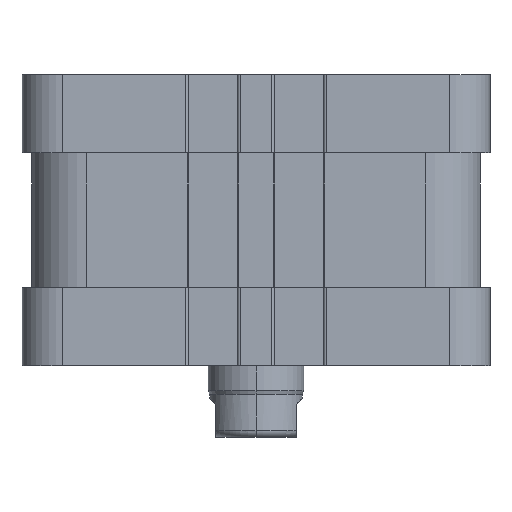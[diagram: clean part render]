
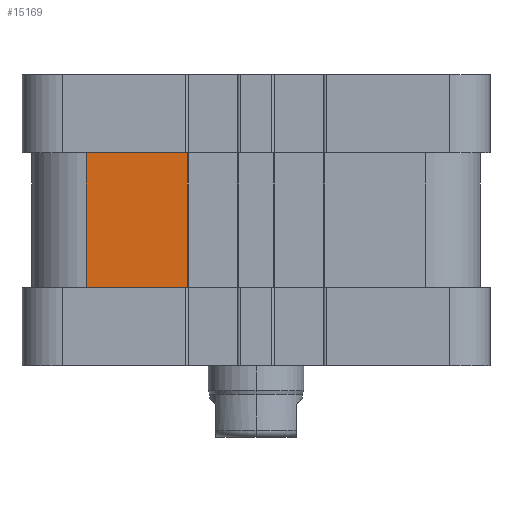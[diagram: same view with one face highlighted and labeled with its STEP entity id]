
A CAD part, left-side view. The second image highlights one B-rep face of the part: STEP entity #15169.
In plain terms, the highlighted planar face has unit normal (-1, 0, 0).
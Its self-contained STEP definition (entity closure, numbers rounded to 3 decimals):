
#8570=CARTESIAN_POINT('',(-28.25,-9.6,-11.6));
#8571=VERTEX_POINT('',#8570);
#8579=CARTESIAN_POINT('',(-28.25,11.5,-11.6));
#8580=VERTEX_POINT('',#8579);
#8581=CARTESIAN_POINT('',(-28.25,11.5,-11.6));
#8582=DIRECTION('',(0.0,-1.0,0.0));
#8583=VECTOR('',#8582,21.1);
#8584=LINE('',#8581,#8583);
#8585=EDGE_CURVE('',#8580,#8571,#8584,.T.);
#11064=CARTESIAN_POINT('',(-28.25,11.5,16.6));
#11065=VERTEX_POINT('',#11064);
#11073=CARTESIAN_POINT('',(-28.25,-9.6,16.6));
#11074=VERTEX_POINT('',#11073);
#11075=CARTESIAN_POINT('',(-28.25,-9.6,16.6));
#11076=DIRECTION('',(0.0,1.0,0.0));
#11077=VECTOR('',#11076,21.1);
#11078=LINE('',#11075,#11077);
#11079=EDGE_CURVE('',#11074,#11065,#11078,.T.);
#15087=CARTESIAN_POINT('',(-28.25,-9.6,16.6));
#15088=DIRECTION('',(0.0,0.0,-1.0));
#15089=VECTOR('',#15088,28.2);
#15090=LINE('',#15087,#15089);
#15091=EDGE_CURVE('',#11074,#8571,#15090,.T.);
#15153=CARTESIAN_POINT('',(-28.25,-59.5,-11.6));
#15154=DIRECTION('',(-1.0,0.0,0.0));
#15155=DIRECTION('',(0.0,0.0,1.0));
#15156=AXIS2_PLACEMENT_3D('',#15153,#15154,#15155);
#15157=PLANE('',#15156);
#15158=ORIENTED_EDGE('',*,*,#15091,.F.);
#15159=ORIENTED_EDGE('',*,*,#11079,.T.);
#15160=CARTESIAN_POINT('',(-28.25,11.5,-11.6));
#15161=DIRECTION('',(0.0,0.0,1.0));
#15162=VECTOR('',#15161,28.2);
#15163=LINE('',#15160,#15162);
#15164=EDGE_CURVE('',#8580,#11065,#15163,.T.);
#15165=ORIENTED_EDGE('',*,*,#15164,.F.);
#15166=ORIENTED_EDGE('',*,*,#8585,.T.);
#15167=EDGE_LOOP('',(#15158,#15159,#15165,#15166));
#15168=FACE_OUTER_BOUND('',#15167,.T.);
#15169=ADVANCED_FACE('',(#15168),#15157,.T.);
